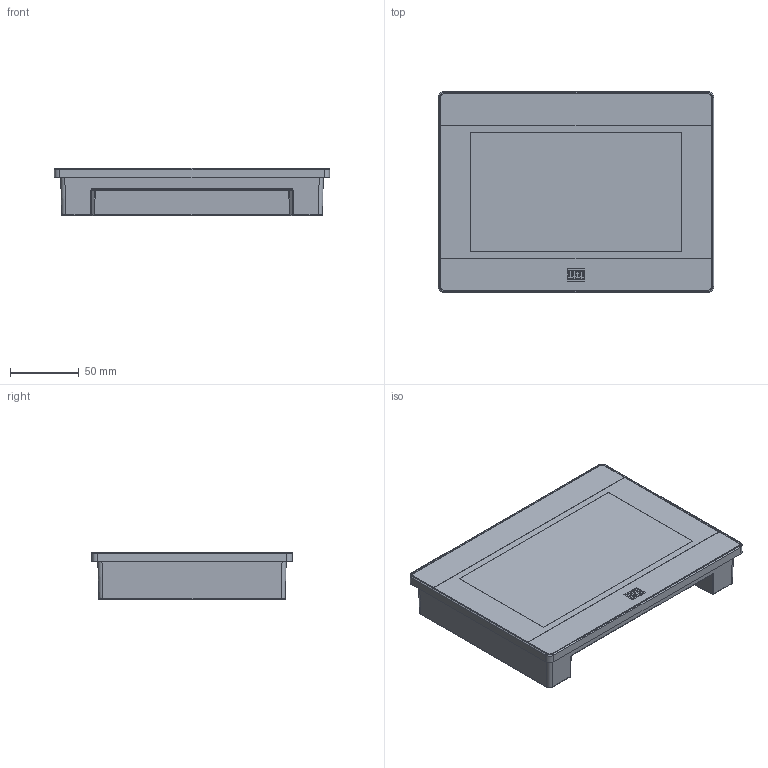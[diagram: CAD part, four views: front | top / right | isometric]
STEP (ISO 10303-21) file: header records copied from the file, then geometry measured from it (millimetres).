
FILE_DESCRIPTION (( 'STEP AP203' ), '1' );
FILE_NAME ('STP - MT80751iP.STEP', '2022-07-14T18:36:20', ( '' ), ( '' ), 'SwSTEP 2.0', 'SolidWorks 2018', '' );
FILE_SCHEMA (( 'CONFIG_CONTROL_DESIGN' ));
Length unit declared in the file: millimetre
Products named in the file (1): STP - MT80751iP
Bounding box: 200 x 146 x 34.36 mm (x, y, z)
Volume: 824649.6 mm3; surface area: 81247 mm2
Topology: 1 solids, 1 shells, 125 faces, 309 edges, 194 vertices
Faces by surface type: plane 76, cylinder 32, bspline 9, torus 4, sphere 4
Entity records: 3904 total; most frequent: CARTESIAN_POINT 926, ORIENTED_EDGE 618, DIRECTION 578, EDGE_CURVE 309, VECTOR 230, LINE 230, VERTEX_POINT 194, AXIS2_PLACEMENT_3D 174
